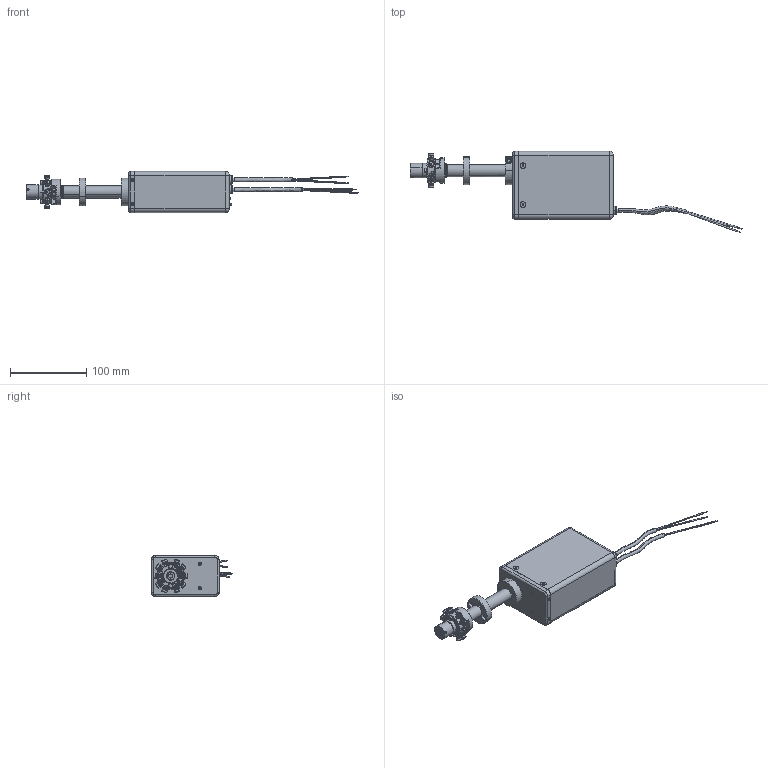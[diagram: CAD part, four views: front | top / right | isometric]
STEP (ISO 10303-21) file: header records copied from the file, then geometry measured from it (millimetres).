
FILE_DESCRIPTION (( 'STEP AP214' ), '1' );
FILE_NAME ('MRV10-16R2-0007-4E-Blank.STEP', '2020-03-23T13:06:14', ( 'user' ), ( '' ), 'SwSTEP 2.0', 'SolidWorks 2019', '' );
FILE_SCHEMA (( 'AUTOMOTIVE_DESIGN' ));
Length unit declared in the file: inch
Products named in the file (1): MRV10-16R2-0007-4E-Blank
Bounding box: 435.31 x 106.82 x 53.85 mm (x, y, z)
Volume: 684023.7 mm3; surface area: 82981.7 mm2
Topology: 89 solids, 92 shells, 3854 faces, 10187 edges, 6654 vertices
Faces by surface type: plane 1890, cylinder 756, bspline 748, cone 367, torus 88, sphere 5
Entity records: 216584 total; most frequent: CARTESIAN_POINT 130612, ORIENTED_EDGE 20346, EDGE_CURVE 10173, DIRECTION 9993, VERTEX_POINT 6653, B_SPLINE_CURVE_WITH_KNOTS 6404, EDGE_LOOP 4026, FACE_OUTER_BOUND 3854
